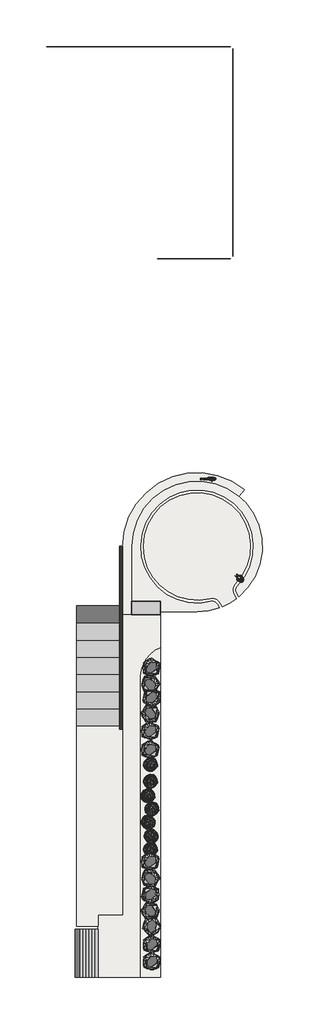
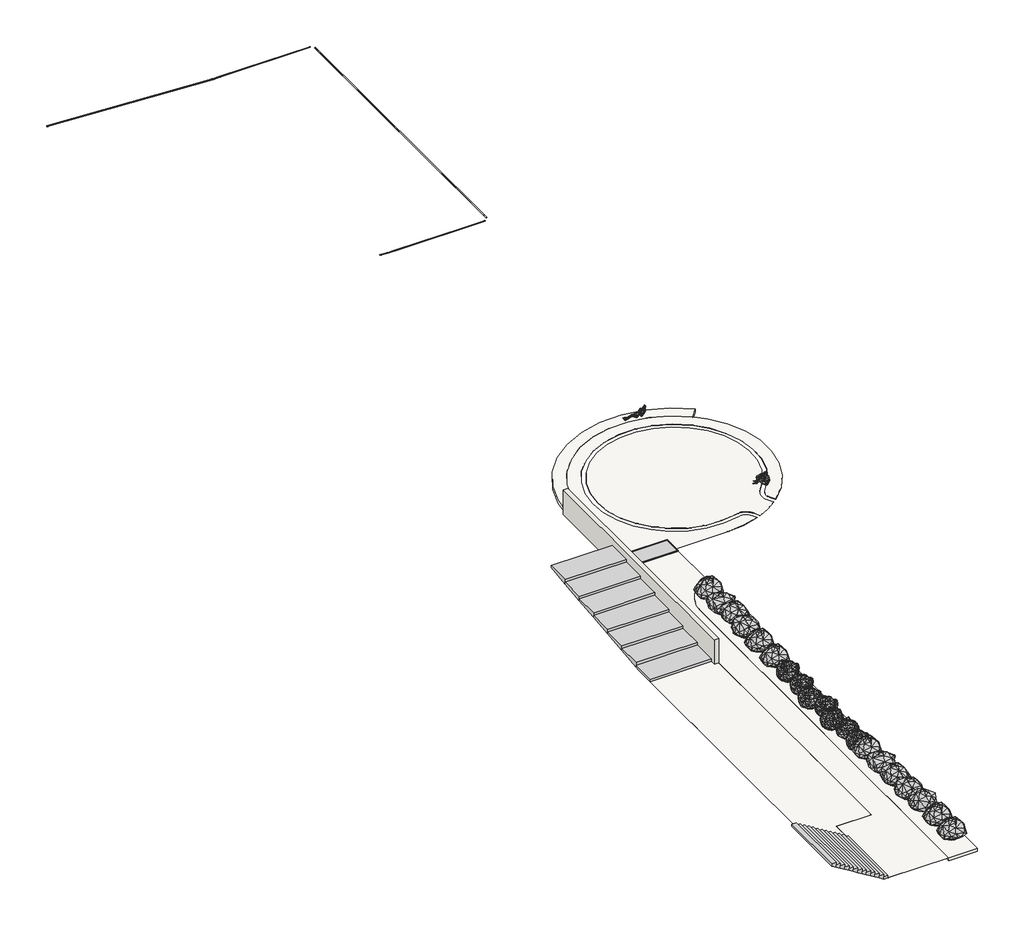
# One storey: 22 geographic elements, 14 slabs, 2 stair flights, 1 proxy, 1 wall.
"""IFC4 building model written with IfcOpenShell, lengths in millimetres."""

from ifc_helpers import new_model, si_unit, point, frame, frame_2d, origin, place, context, project, spatial, polyline, circle_curve, trimmed, segment, composite_curve, outline, extrude, faceted_brep, transform, mapped, element, save
from components import generic_models_308d6f67, geographic_element_fcbac310, geographic_element_441a0461, geographic_element_2ea6dca1, geographic_element_0bc7d26b, pieza_112_aqua_blanco_liso_9aff94d1, pieza_112_aqua_blanco_liso_302151b8, pieza_112_aqua_blanco_liso_eb2f0002, pieza_112_aqua_blanco_liso_904b2520, pieza_112_aqua_blanco_liso_29996f7a, pieza_112_aqua_blanco_liso_8053cc1b, pieza_112_aqua_blanco_liso_853ec705, pieza_112_aqua_blanco_liso_45da04d9

model = new_model("IFC4")

# Units and contexts
model_context = context("Model", 3, world=origin())
ifc_project = project(units=[si_unit("LENGTHUNIT", "METRE", prefix="MILLI")], contexts=[model_context])

# Site, building, storey
site = spatial("IfcSite", under=ifc_project)
building = spatial("IfcBuilding", under=site)
storey = spatial("IfcBuildingStorey", under=building, Name="6_NPlaya PIn -2.40", Elevation=-2400.0)

# Proxy
placement = place(None, origin())
generic_models_shape = generic_models_308d6f67(model_context)
element("IfcBuildingElementProxy", 1, Name="PLATO DE DUCHA : Plato de Ducha 135x285 cm", ObjectType="PLATO DE DUCHA : Plato de Ducha 135x285 cm", at=placement, inside=storey, context=model_context, shape_type="MappedRepresentation", body=[
    mapped(generic_models_shape, transform((19228.985042, -4614.6128004, -2400.0), x_axis=(1.0, 0.0, 0.0), y_axis=(0.0, 1.0, 0.0), z_axis=(0.0, 0.0, 1.0))),
])

# Geographic elements
geographic_element_shape = geographic_element_fcbac310(model_context)
element("IfcGeographicElement", 2, ObjectType="Enscape AssetDefinition - Arbusto Yeg : Enscape AssetDefinition - Arbusto Yeg", at=placement, inside=storey, context=model_context, shape_type="MappedRepresentation", body=[
    mapped(geographic_element_shape, transform((19821.7250342, -39579.0140309, -2400.0), x_axis=(1.0, 0.0, 0.0), y_axis=(0.0, 1.0, 0.0), z_axis=(0.0, 0.0, 1.0))),
])
element("IfcGeographicElement", 3, ObjectType="Enscape AssetDefinition - Arbusto Yeg : Enscape AssetDefinition - Arbusto Yeg", at=placement, inside=storey, context=model_context, shape_type="MappedRepresentation", body=[
    mapped(geographic_element_shape, transform((19821.7250342, -37879.0140309, -2400.0), x_axis=(1.0, 0.0, 0.0), y_axis=(0.0, 1.0, 0.0), z_axis=(0.0, 0.0, 1.0))),
])
element("IfcGeographicElement", 4, ObjectType="Enscape AssetDefinition - Arbusto Yeg : Enscape AssetDefinition - Arbusto Yeg", at=placement, inside=storey, context=model_context, shape_type="MappedRepresentation", body=[
    mapped(geographic_element_shape, transform((19794.4932764, -36079.0140309, -2400.0), x_axis=(0.7071067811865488, 0.7071067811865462, 0.0), y_axis=(-0.7071067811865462, 0.7071067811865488, 0.0), z_axis=(0.0, 0.0, 1.0))),
])
element("IfcGeographicElement", 5, ObjectType="Enscape AssetDefinition - Arbusto Yeg : Enscape AssetDefinition - Arbusto Yeg", at=placement, inside=storey, context=model_context, shape_type="MappedRepresentation", body=[
    mapped(geographic_element_shape, transform((19661.0630204, -34576.2220179, -2400.0), x_axis=(0.0, 1.0, 0.0), y_axis=(-1.0, 0.0, 0.0), z_axis=(0.0, 0.0, 1.0))),
])
element("IfcGeographicElement", 6, ObjectType="Enscape AssetDefinition - Arbusto Yeg : Enscape AssetDefinition - Arbusto Yeg", at=placement, inside=storey, context=model_context, shape_type="MappedRepresentation", body=[
    mapped(geographic_element_shape, transform((19661.0630204, -32979.0140309, -2400.0), x_axis=(-1.0, 0.0, 0.0), y_axis=(0.0, -1.0, 0.0), z_axis=(0.0, 0.0, 1.0))),
])
element("IfcGeographicElement", 7, ObjectType="Enscape AssetDefinition - Arbusto Yeg : Enscape AssetDefinition - Arbusto Yeg", at=placement, inside=storey, context=model_context, shape_type="MappedRepresentation", body=[
    mapped(geographic_element_shape, transform((19661.0630204, -31379.0140309, -2400.0), x_axis=(0.0, -1.0, 0.0), y_axis=(1.0, 0.0, 0.0), z_axis=(0.0, 0.0, 1.0))),
])
element("IfcGeographicElement", 8, ObjectType="Enscape AssetDefinition - Arbusto Yeg : Enscape AssetDefinition - Arbusto Yeg", at=placement, inside=storey, context=model_context, shape_type="MappedRepresentation", body=[
    mapped(geographic_element_shape, transform((19661.0630204, -29676.2220179, -2400.0), x_axis=(1.0, 0.0, 0.0), y_axis=(0.0, 1.0, 0.0), z_axis=(0.0, 0.0, 1.0))),
])
element("IfcGeographicElement", 9, ObjectType="Enscape AssetDefinition - Arbusto Yeg : Enscape AssetDefinition - Arbusto Yeg", at=placement, inside=storey, context=model_context, shape_type="MappedRepresentation", body=[
    mapped(geographic_element_shape, transform((19661.0630204, -18607.3550287, -2400.0), x_axis=(1.0, 0.0, 0.0), y_axis=(0.0, 1.0, 0.0), z_axis=(0.0, 0.0, 1.0))),
])
element("IfcGeographicElement", 10, ObjectType="Enscape AssetDefinition - Arbusto Yeg : Enscape AssetDefinition - Arbusto Yeg", at=placement, inside=storey, context=model_context, shape_type="MappedRepresentation", body=[
    mapped(geographic_element_shape, transform((19661.0630204, -16756.5342519, -2400.0), x_axis=(1.0, 0.0, 0.0), y_axis=(0.0, 1.0, 0.0), z_axis=(0.0, 0.0, 1.0))),
])
element("IfcGeographicElement", 11, ObjectType="Enscape AssetDefinition - Arbusto Yeg : Enscape AssetDefinition - Arbusto Yeg", at=placement, inside=storey, context=model_context, shape_type="MappedRepresentation", body=[
    mapped(geographic_element_shape, transform((19661.0630204, -15023.6497252, -2400.0), x_axis=(0.0, 1.0, 0.0), y_axis=(-1.0, 0.0, 0.0), z_axis=(0.0, 0.0, 1.0))),
])
element("IfcGeographicElement", 12, ObjectType="Enscape AssetDefinition - Arbusto Yeg : Enscape AssetDefinition - Arbusto Yeg", at=placement, inside=storey, context=model_context, shape_type="MappedRepresentation", body=[
    mapped(geographic_element_shape, transform((19794.3896595, -13476.2220179, -2400.0), x_axis=(-1.0, 0.0, 0.0), y_axis=(0.0, -1.0, 0.0), z_axis=(0.0, 0.0, 1.0))),
])
element("IfcGeographicElement", 13, ObjectType="Enscape AssetDefinition - Arbusto Yeg : Enscape AssetDefinition - Arbusto Yeg", at=placement, inside=storey, context=model_context, shape_type="MappedRepresentation", body=[
    mapped(geographic_element_shape, transform((19661.0630204, -12176.2220179, -2400.0), x_axis=(0.0, -1.0, 0.0), y_axis=(1.0, 0.0, 0.0), z_axis=(0.0, 0.0, 1.0))),
])
element("IfcGeographicElement", 14, ObjectType="Enscape AssetDefinition - Arbusto Yeg : Enscape AssetDefinition - Arbusto Yeg", at=placement, inside=storey, context=model_context, shape_type="MappedRepresentation", body=[
    mapped(geographic_element_shape, transform((19794.3896595, -10476.2220179, -2400.0), x_axis=(1.0, 0.0, 0.0), y_axis=(0.0, 1.0, 0.0), z_axis=(0.0, 0.0, 1.0))),
])
geographic_element_2_shape = geographic_element_441a0461(model_context)
element("IfcGeographicElement", 15, ObjectType="Enscape AssetDefinition - Arbusto bergamota : Enscape AssetDefinition - Arbusto bergamota", at=placement, inside=storey, context=model_context, shape_type="MappedRepresentation", body=[
    mapped(geographic_element_2_shape, transform((19661.0630204, -28398.4556495, -2400.0), x_axis=(1.0, 0.0, 0.0), y_axis=(0.0, 1.0, 0.0), z_axis=(0.0, 0.0, 1.0))),
])
element("IfcGeographicElement", 16, ObjectType="Enscape AssetDefinition - Arbusto bergamota : Enscape AssetDefinition - Arbusto bergamota", at=placement, inside=storey, context=model_context, shape_type="MappedRepresentation", body=[
    mapped(geographic_element_2_shape, transform((19661.0630204, -27198.4556495, -2400.0), x_axis=(0.0, 1.0, 0.0), y_axis=(-1.0, 0.0, 0.0), z_axis=(0.0, 0.0, 1.0))),
])
element("IfcGeographicElement", 17, ObjectType="Enscape AssetDefinition - Arbusto bergamota : Enscape AssetDefinition - Arbusto bergamota", at=placement, inside=storey, context=model_context, shape_type="MappedRepresentation", body=[
    mapped(geographic_element_2_shape, transform((19521.7250342, -25782.2908836, -2400.0), x_axis=(0.0, -1.0, 0.0), y_axis=(1.0, 0.0, 0.0), z_axis=(0.0, 0.0, 1.0))),
])
element("IfcGeographicElement", 18, ObjectType="Enscape AssetDefinition - Arbusto bergamota : Enscape AssetDefinition - Arbusto bergamota", at=placement, inside=storey, context=model_context, shape_type="MappedRepresentation", body=[
    mapped(geographic_element_2_shape, transform((19794.3896595, -24398.4556495, -2400.0), x_axis=(1.0, 0.0, 0.0), y_axis=(0.0, 1.0, 0.0), z_axis=(0.0, 0.0, 1.0))),
])
element("IfcGeographicElement", 19, ObjectType="Enscape AssetDefinition - Arbusto bergamota : Enscape AssetDefinition - Arbusto bergamota", at=placement, inside=storey, context=model_context, shape_type="MappedRepresentation", body=[
    mapped(geographic_element_2_shape, transform((19394.3896595, -23098.4556495, -2400.0), x_axis=(1.0, 0.0, 0.0), y_axis=(0.0, 1.0, 0.0), z_axis=(0.0, 0.0, 1.0))),
])
element("IfcGeographicElement", 20, ObjectType="Enscape AssetDefinition - Arbusto bergamota : Enscape AssetDefinition - Arbusto bergamota", at=placement, inside=storey, context=model_context, shape_type="MappedRepresentation", body=[
    mapped(geographic_element_2_shape, transform((19661.0630204, -21667.8312091, -2400.0), x_axis=(1.0, 0.0, 0.0), y_axis=(0.0, 1.0, 0.0), z_axis=(0.0, 0.0, 1.0))),
])
element("IfcGeographicElement", 21, ObjectType="Enscape AssetDefinition - Arbusto bergamota : Enscape AssetDefinition - Arbusto bergamota", at=placement, inside=storey, context=model_context, shape_type="MappedRepresentation", body=[
    mapped(geographic_element_2_shape, transform((19661.0630204, -20007.3550287, -2400.0), x_axis=(1.0, 0.0, 0.0), y_axis=(0.0, 1.0, 0.0), z_axis=(0.0, 0.0, 1.0))),
])
geographic_element_3_shape = geographic_element_2ea6dca1(model_context)
element("IfcGeographicElement", 22, ObjectType="Enscape AssetDefinition - Terrell sentado : Enscape AssetDefinition - Terrell sentado", at=placement, inside=storey, context=model_context, shape_type="MappedRepresentation", body=[
    mapped(geographic_element_3_shape, transform((28717.4654127, -1850.5813074, -2400.0), x_axis=(-0.7071067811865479, -0.7071067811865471, 0.0), y_axis=(0.7071067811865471, -0.7071067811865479, 0.0), z_axis=(0.0, 0.0, 1.0))),
])
geographic_element_4_shape = geographic_element_0bc7d26b(model_context)
element("IfcGeographicElement", 23, ObjectType="Enscape AssetDefinition - Asya, tumbada : Enscape AssetDefinition - Asya, tumbada", at=placement, inside=storey, context=model_context, shape_type="MappedRepresentation", body=[
    mapped(geographic_element_4_shape, transform((25454.2749855, 8172.0410336, -2400.0), x_axis=(1.0, 0.0, 0.0), y_axis=(0.0, 1.0, 0.0), z_axis=(0.0, 0.0, 1.0))),
])

# Slabs
element("IfcSlab", 24, ObjectType="Pieza 240 G1_Patrón Recto_Aqua_Indubeige_Pastilla", at=placement, inside=storey, context=model_context, shape_type="SweptSolid", body=[
    extrude(outline(composite_curve([segment(trimmed(circle_curve(frame_2d((24277.5470116, 1492.6449713)), 6482.2577717), [point((17795.2892399, 1492.6449713))], [point((28426.2680908, -3488.0958598))], False, "CARTESIAN"), True, "CONTINUOUS"), segment(polyline([(28426.2680908, -3488.0958598), (28215.201102, -3122.4573292)]), True, "CONTINUOUS"), segment(trimmed(circle_curve(frame_2d((28736.9743092, -2826.668529)), 599.781872), [point((28215.201102, -3122.4573292))], [point((28295.5205503, -2420.6428244))], False, "CARTESIAN"), True, "CONTINUOUS"), segment(trimmed(circle_curve(frame_2d((24277.3611521, 1492.8308308)), 5609.0), [point((28295.5205503, -2420.6428244))], [point((25634.5089179, -3949.50607))], True, "CARTESIAN"), True, "CONTINUOUS"), segment(trimmed(circle_curve(frame_2d((25769.6967335, -4545.0875921)), 610.7316063), [point((25634.5089179, -3949.50607))], [point((26294.3083039, -4232.3963784))], False, "CARTESIAN"), True, "CONTINUOUS"), segment(polyline([(26294.3083039, -4232.3963784), (26503.5907653, -4595.4084964)]), True, "CONTINUOUS"), segment(trimmed(circle_curve(frame_2d((24277.5470116, 1492.6449713)), 6482.2577717), [point((26503.5907653, -4595.4084964))], [point((24277.5470116, -4989.6128004))], False, "CARTESIAN"), True, "CONTINUOUS"), segment(polyline([(24277.5470116, -4989.6128004), (20653.985042, -4989.6128004), (20653.985042, -3939.6128004), (17795.2892399, -3939.6128004), (17795.2892399, 1492.6449713)]), True, "CONTINUOUS")], self_intersect=False)), frame((0.0, 0.0, -2409.0), z_axis=(0.0, 0.0, 1.0), x_axis=(1.0, 0.0, 0.0)), (0.0, 0.0, 1.0), 9.0),
])
element("IfcSlab", 25, ObjectType="GENÉRICO_AGUA", at=placement, inside=storey, context=model_context, shape_type="SweptSolid", body=[
    extrude(outline(composite_curve([segment(trimmed(circle_curve(frame_2d((28736.9743092, -2826.668529)), 896.3208324), [point((28049.2554614, -2251.8347956))], [point((27928.8365042, -3214.3595435))], True, "CARTESIAN"), True, "CONTINUOUS"), segment(polyline([(27928.8365042, -3214.3595435), (28193.6045529, -3673.0262486)]), True, "CONTINUOUS"), segment(trimmed(circle_curve(frame_2d((24277.5470116, 1492.6449713)), 6482.2577717), [point((28193.6045529, -3673.0262486))], [point((26780.3692785, -4486.9492055))], False, "CARTESIAN"), True, "CONTINUOUS"), segment(polyline([(26780.3692785, -4486.9492055), (26548.0100454, -4083.9091382)]), True, "CONTINUOUS"), segment(trimmed(circle_curve(frame_2d((25769.6967335, -4545.0875921)), 904.6862317), [point((26548.0100454, -4083.9091382))], [point((25566.0686018, -3663.615663))], True, "CARTESIAN"), True, "CONTINUOUS"), segment(trimmed(circle_curve(frame_2d((24277.3611521, 1492.8308308)), 5315.0453746), [point((25566.0686018, -3663.615663))], [point((18962.3157775, 1492.8308308))], False, "CARTESIAN"), True, "CONTINUOUS"), segment(trimmed(circle_curve(frame_2d((24277.3611521, 1492.8308308)), 5315.0453746), [point((18962.3157775, 1492.8308308))], [point((28049.2554614, -2251.8347956))], False, "CARTESIAN"), True, "CONTINUOUS")], self_intersect=False)), frame((0.0, 0.0, -2401.0), z_axis=(0.0, 0.0, 1.0), x_axis=(1.0, 0.0, 0.0)), (0.0, 0.0, 1.0), 1.0),
])
element("IfcSlab", 26, ObjectType="GENÉRICO_HIERBA", at=placement, inside=storey, context=model_context, shape_type="SweptSolid", body=[
    extrude(outline(composite_curve([segment(trimmed(circle_curve(frame_2d((24278.5577358, 1416.2882257)), 7382.7633924), [point((16895.7943435, 1416.2882257))], [point((28984.3417927, 7104.9428749))], False, "CARTESIAN"), True, "CONTINUOUS"), segment(polyline([(28984.3417927, 7104.9428749), (28442.9849464, 6459.4138033)]), True, "CONTINUOUS"), segment(trimmed(circle_curve(frame_2d((24277.5470116, 1492.6449713)), 6482.2577717), [point((28442.9849464, 6459.4138033))], [point((17795.2892399, 1492.6449713))], True, "CARTESIAN"), True, "CONTINUOUS"), segment(polyline([(17795.2892399, 1492.6449713), (17795.2892399, -5289.6128004), (16895.7943435, -5289.6128004), (16895.7943435, 1416.2882257)]), True, "CONTINUOUS")], self_intersect=False)), frame((0.0, 0.0, -2631.0), z_axis=(0.0, 0.0, 1.0), x_axis=(1.0, 0.0, 0.0)), (0.0, 0.0, 1.0), 231.0),
])
element("IfcSlab", 27, ObjectType="Pieza 240 G1_Patrón Recto_Aqua_Indubeige_Pastilla", at=placement, inside=storey, context=model_context, shape_type="SweptSolid", body=[
    extrude(outline(composite_curve([segment(trimmed(circle_curve(frame_2d((21933.9746311, -11524.8157802)), 3268.9658988), [point((20653.985042, -8516.8655314))], [point((18671.8705235, -11313.1206243))], True, "CARTESIAN"), True, "CONTINUOUS"), segment(polyline([(18671.8705235, -11313.1206243), (18671.8705235, -41165.6888719), (14455.9892565, -41165.6888719), (14455.9892565, -34956.7174558), (16896.1892165, -34956.7174558), (16896.1892165, -5289.6128004), (20653.985042, -5289.6128004), (20653.985042, -8516.8655314)]), True, "CONTINUOUS")], self_intersect=False)), frame((0.0, 0.0, -2409.0), z_axis=(0.0, 0.0, 1.0), x_axis=(1.0, 0.0, 0.0)), (0.0, 0.0, 1.0), 9.0),
])
element("IfcSlab", 28, ObjectType="GENÉRICO_HIERBA", at=placement, inside=storey, context=model_context, shape_type="SweptSolid", body=[
    extrude(outline(composite_curve([segment(polyline([(20653.985042, -41165.6888719), (18671.8705235, -41165.6888719), (18671.8705235, -11313.1206243)]), True, "CONTINUOUS"), segment(trimmed(circle_curve(frame_2d((21933.9746311, -11524.8157802)), 3268.9658988), [point((18671.8705235, -11313.1206243))], [point((20653.985042, -8516.8655314))], False, "CARTESIAN"), True, "CONTINUOUS"), segment(polyline([(20653.985042, -8516.8655314), (20653.985042, -41165.6888719)]), True, "CONTINUOUS")], self_intersect=False)), frame((0.0, 0.0, -2631.0), z_axis=(0.0, 0.0, 1.0), x_axis=(1.0, 0.0, 0.0)), (0.0, 0.0, 1.0), 231.0),
])
element("IfcSlab", 29, ObjectType="GENÉRICO_PLAYA", at=placement, inside=storey, context=model_context, shape_type="SweptSolid", body=[
    extrude(outline(polyline([(16596.1892165, -16276.2220179), (16596.1892165, -16607.3550287), (16896.1892165, -16607.3550287), (16896.1892165, -34956.7174558), (14455.9892565, -34956.7174558), (14455.9892565, -36079.0140309), (12361.0630204, -36079.0140309), (12361.0630204, -16276.2220179), (16596.1892165, -16276.2220179)])), frame((0.0, 0.0, -2409.0), z_axis=(0.0, 0.0, 1.0), x_axis=(1.0, 0.0, 0.0)), (0.0, 0.0, 1.0), 9.0),
])
pieza_112_aqua_blanco_liso_shape = pieza_112_aqua_blanco_liso_9aff94d1(model_context)
element("IfcSlab", 30, ObjectType="ROSA GRES_112 : Pieza 112_Aqua_Blanco_Liso", at=placement, inside=storey, context=model_context, shape_type="MappedRepresentation", body=[
    mapped(pieza_112_aqua_blanco_liso_shape, transform((9361.1499347, 50963.368284, -1433.9132147), x_axis=(0.9987523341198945, 0.0, -0.04993771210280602), y_axis=(0.0, 1.0, 0.0), z_axis=(0.04993771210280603, 0.0, 0.9987523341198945))),
])
pieza_112_aqua_blanco_liso_2_shape = pieza_112_aqua_blanco_liso_302151b8(model_context)
element("IfcSlab", 31, ObjectType="ROSA GRES_112 : Pieza 112_Aqua_Blanco_Liso", at=placement, inside=storey, context=model_context, shape_type="MappedRepresentation", body=[
    mapped(pieza_112_aqua_blanco_liso_2_shape, transform((21347.9297857, 50963.368284, -2010.0), x_axis=(1.0, 0.0, 0.0), y_axis=(0.0, 1.0, 0.0), z_axis=(0.0, 0.0, 1.0))),
])
pieza_112_aqua_blanco_liso_3_shape = pieza_112_aqua_blanco_liso_eb2f0002(model_context)
element("IfcSlab", 32, ObjectType="ROSA GRES_112 : Pieza 112_Aqua_Blanco_Liso", at=placement, inside=storey, context=model_context, shape_type="MappedRepresentation", body=[
    mapped(pieza_112_aqua_blanco_liso_3_shape, transform((27846.7651167, 50743.3948726, -2010.0), x_axis=(0.0, -1.0, 0.0), y_axis=(1.0, 0.0, 0.0), z_axis=(0.0, 0.0, 1.0))),
])
pieza_112_aqua_blanco_liso_4_shape = pieza_112_aqua_blanco_liso_904b2520(model_context)
element("IfcSlab", 33, ObjectType="ROSA GRES_112 : Pieza 112_Aqua_Blanco_Liso", at=placement, inside=storey, context=model_context, shape_type="MappedRepresentation", body=[
    mapped(pieza_112_aqua_blanco_liso_4_shape, transform((21347.8958493, 29963.368284, -2010.0), x_axis=(1.0, 0.0, 0.0), y_axis=(0.0, 1.0, 0.0), z_axis=(0.0, 0.0, 1.0))),
])
pieza_112_aqua_blanco_liso_5_shape = pieza_112_aqua_blanco_liso_29996f7a(model_context)
element("IfcSlab", 34, ObjectType="ROSA GRES_112 : Pieza 112_Aqua_Blanco_Liso", at=placement, inside=storey, context=model_context, shape_type="MappedRepresentation", body=[
    mapped(pieza_112_aqua_blanco_liso_5_shape, transform((21347.9297857, 50963.368284, -2010.0), x_axis=(-1.0, 0.0, 0.0), y_axis=(0.0, -1.0, 0.0), z_axis=(0.0, 0.0, 1.0))),
])
pieza_112_aqua_blanco_liso_6_shape = pieza_112_aqua_blanco_liso_8053cc1b(model_context)
element("IfcSlab", 35, ObjectType="ROSA GRES_112 : Pieza 112_Aqua_Blanco_Liso", at=placement, inside=storey, context=model_context, shape_type="MappedRepresentation", body=[
    mapped(pieza_112_aqua_blanco_liso_6_shape, transform((27846.7651167, 30196.8948726, -2010.0), x_axis=(0.0, 1.0, 0.0), y_axis=(-1.0, 0.0, 0.0), z_axis=(0.0, 0.0, 1.0))),
])
pieza_112_aqua_blanco_liso_7_shape = pieza_112_aqua_blanco_liso_853ec705(model_context)
element("IfcSlab", 36, ObjectType="ROSA GRES_112 : Pieza 112_Aqua_Blanco_Liso", at=placement, inside=storey, context=model_context, shape_type="MappedRepresentation", body=[
    mapped(pieza_112_aqua_blanco_liso_7_shape, transform((21347.8958493, 29963.368284, -2010.0), x_axis=(-1.0, 0.0, 0.0), y_axis=(0.0, -1.0, 0.0), z_axis=(0.0, 0.0, 1.0))),
])
pieza_112_aqua_blanco_liso_8_shape = pieza_112_aqua_blanco_liso_45da04d9(model_context)
element("IfcSlab", 37, ObjectType="ROSA GRES_112 : Pieza 112_Aqua_Blanco_Liso", at=placement, inside=storey, context=model_context, shape_type="MappedRepresentation", body=[
    mapped(pieza_112_aqua_blanco_liso_8_shape, transform((20347.7199138, 29963.368284, -1981.1522907), x_axis=(0.9987523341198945, 0.0, -0.04993771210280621), y_axis=(0.0, 1.0, 0.0), z_axis=(0.04993771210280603, 0.0, 0.9987523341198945))),
])

# Stair flights
element("IfcStairFlight", 38, ObjectType="Tramo monolítico", at=placement, inside=storey, context=model_context, shape_type="Brep", body=[
    faceted_brep([(14155.9892565, -41165.6888719, -2216.3285714), (14455.9892565, -41165.6888719, -2216.3285714), (14455.9892565, -36379.0140309, -2216.3285714), (14155.9892565, -36379.0140309, -2216.3285714), (14155.9892565, -41165.6888719, -2392.2086397), (14168.7152863, -41165.6888719, -2400.0), (14455.9892565, -41165.6888719, -2400.0), (14455.9892565, -36379.0140309, -2400.0), (14168.7152863, -36379.0140309, -2400.0), (14155.9892565, -36379.0140309, -2392.2086397), (13855.9892565, -41165.6888719, -2032.6571429), (14155.9892565, -41165.6888719, -2032.6571429), (14155.9892565, -36379.0140309, -2032.6571429), (13855.9892565, -36379.0140309, -2032.6571429), (13855.9892565, -41165.6888719, -2208.5372111), (13855.9892565, -36379.0140309, -2208.5372111), (13555.9892565, -41165.6888719, -1848.9857143), (13855.9892565, -41165.6888719, -1848.9857143), (13855.9892565, -36379.0140309, -1848.9857143), (13555.9892565, -36379.0140309, -1848.9857143), (13555.9892565, -41165.6888719, -2024.8657826), (13555.9892565, -36379.0140309, -2024.8657826), (13255.9892565, -41165.6888719, -1665.3142857), (13555.9892565, -41165.6888719, -1665.3142857), (13555.9892565, -36379.0140309, -1665.3142857), (13255.9892565, -36379.0140309, -1665.3142857), (13255.9892565, -41165.6888719, -1841.194354), (13255.9892565, -36379.0140309, -1841.194354), (12955.9892565, -41165.6888719, -1481.6428571), (13255.9892565, -41165.6888719, -1481.6428571), (13255.9892565, -36379.0140309, -1481.6428571), (12955.9892565, -36379.0140309, -1481.6428571), (12955.9892565, -41165.6888719, -1657.5229254), (12955.9892565, -36379.0140309, -1657.5229254), (12655.9892565, -41165.6888719, -1297.9714286), (12955.9892565, -41165.6888719, -1297.9714286), (12955.9892565, -36379.0140309, -1297.9714286), (12655.9892565, -36379.0140309, -1297.9714286), (12655.9892565, -41165.6888719, -1473.8514969), (12655.9892565, -36379.0140309, -1473.8514969), (12355.9892565, -41165.6888719, -1114.3), (12655.9892565, -41165.6888719, -1114.3), (12655.9892565, -36379.0140309, -1114.3), (12355.9892565, -36379.0140309, -1114.3), (12355.9892565, -41165.6888719, -1290.1800683), (12355.9892565, -36379.0140309, -1290.1800683), (12055.9892565, -41165.6888719, -930.6285714), (12355.9892565, -41165.6888719, -930.6285714), (12355.9892565, -36379.0140309, -930.6285714), (12055.9892565, -36379.0140309, -930.6285714), (12055.9892565, -41165.6888719, -1106.5086397), (12055.9892565, -36379.0140309, -1106.5086397), (11755.9892565, -41165.6888719, -746.9571429), (12055.9892565, -41165.6888719, -746.9571429), (12055.9892565, -36379.0140309, -746.9571429), (11755.9892565, -36379.0140309, -746.9571429), (11755.9892565, -41165.6888719, -922.8372111), (11755.9892565, -36379.0140309, -922.8372111), (11455.9892565, -41165.6888719, -563.2857143), (11755.9892565, -41165.6888719, -563.2857143), (11755.9892565, -36379.0140309, -563.2857143), (11455.9892565, -36379.0140309, -563.2857143), (11455.9892565, -41165.6888719, -739.1657826), (11455.9892565, -36379.0140309, -739.1657826), (11155.9892565, -41165.6888719, -379.6142857), (11455.9892565, -41165.6888719, -379.6142857), (11455.9892565, -36379.0140309, -379.6142857), (11155.9892565, -36379.0140309, -379.6142857), (11155.9892565, -41165.6888719, -555.494354), (11155.9892565, -36379.0140309, -555.494354), (10855.9892565, -41165.6888719, -195.9428571), (11155.9892565, -41165.6888719, -195.9428571), (11155.9892565, -36379.0140309, -195.9428571), (10855.9892565, -36379.0140309, -195.9428571), (10855.9892565, -41165.6888719, -371.8229254), (10855.9892565, -36379.0140309, -371.8229254), (10555.9892565, -41165.6888719, -12.2714286), (10855.9892565, -41165.6888719, -12.2714286), (10855.9892565, -36379.0140309, -12.2714286), (10555.9892565, -36379.0140309, -12.2714286), (10555.9892565, -41165.6888719, -188.1514969), (10555.9892565, -36379.0140309, -188.1514969)], [[[0, 1, 2, 3]], [[1, 0, 4, 5, 6]], [[2, 1, 6, 7]], [[3, 2, 7, 8, 9]], [[10, 11, 12, 13]], [[11, 10, 14, 4, 0]], [[0, 3, 12, 11]], [[13, 12, 3, 9, 15]], [[16, 17, 18, 19]], [[17, 16, 20, 14, 10]], [[10, 13, 18, 17]], [[19, 18, 13, 15, 21]], [[22, 23, 24, 25]], [[23, 22, 26, 20, 16]], [[16, 19, 24, 23]], [[25, 24, 19, 21, 27]], [[28, 29, 30, 31]], [[29, 28, 32, 26, 22]], [[22, 25, 30, 29]], [[31, 30, 25, 27, 33]], [[34, 35, 36, 37]], [[35, 34, 38, 32, 28]], [[28, 31, 36, 35]], [[37, 36, 31, 33, 39]], [[40, 41, 42, 43]], [[41, 40, 44, 38, 34]], [[34, 37, 42, 41]], [[43, 42, 37, 39, 45]], [[46, 47, 48, 49]], [[47, 46, 50, 44, 40]], [[40, 43, 48, 47]], [[49, 48, 43, 45, 51]], [[52, 53, 54, 55]], [[53, 52, 56, 50, 46]], [[46, 49, 54, 53]], [[55, 54, 49, 51, 57]], [[58, 59, 60, 61]], [[59, 58, 62, 56, 52]], [[52, 55, 60, 59]], [[61, 60, 55, 57, 63]], [[64, 65, 66, 67]], [[65, 64, 68, 62, 58]], [[58, 61, 66, 65]], [[67, 66, 61, 63, 69]], [[70, 71, 72, 73]], [[71, 70, 74, 68, 64]], [[64, 67, 72, 71]], [[73, 72, 67, 69, 75]], [[76, 77, 78, 79]], [[77, 76, 80, 74, 70]], [[70, 73, 78, 77]], [[79, 78, 73, 75, 81]], [[76, 79, 81, 80]], [[7, 6, 5, 8]], [[8, 5, 4, 14, 20, 26, 32, 38, 44, 50, 56, 62, 68, 74, 80, 81, 75, 69, 63, 57, 51, 45, 39, 33, 27, 21, 15, 9]]]),
])
element("IfcStairFlight", 39, ObjectType="Tramo monolítico", at=placement, inside=storey, context=model_context, shape_type="Brep", body=[
    faceted_brep([(12361.0630204, -14576.2220179, -2214.2857143), (12361.0630204, -16276.2220179, -2214.2857143), (16596.1892165, -16276.2220179, -2214.2857143), (16596.1892165, -14576.2220179, -2214.2857143), (12361.0630204, -14576.2220179, -2365.1781235), (12361.0630204, -14894.9761177, -2400.0), (12361.0630204, -16276.2220179, -2400.0), (16596.1892165, -16276.2220179, -2400.0), (16596.1892165, -14894.9761177, -2400.0), (16596.1892165, -14576.2220179, -2365.1781235), (12361.0630204, -12876.2220179, -2028.5714286), (12361.0630204, -14576.2220179, -2028.5714286), (16596.1892165, -14576.2220179, -2028.5714286), (16596.1892165, -12876.2220179, -2028.5714286), (12361.0630204, -12876.2220179, -2179.4638378), (16596.1892165, -12876.2220179, -2179.4638378), (12361.0630204, -11176.2220179, -1842.8571429), (12361.0630204, -12876.2220179, -1842.8571429), (16596.1892165, -12876.2220179, -1842.8571429), (16596.1892165, -11176.2220179, -1842.8571429), (12361.0630204, -11176.2220179, -1993.7495521), (16596.1892165, -11176.2220179, -1993.7495521), (12361.0630204, -9476.2220179, -1657.1428571), (12361.0630204, -11176.2220179, -1657.1428571), (16596.1892165, -11176.2220179, -1657.1428571), (16596.1892165, -9476.2220179, -1657.1428571), (12361.0630204, -9476.2220179, -1808.0352664), (16596.1892165, -9476.2220179, -1808.0352664), (12361.0630204, -7776.2220179, -1471.4285714), (12361.0630204, -9476.2220179, -1471.4285714), (16596.1892165, -9476.2220179, -1471.4285714), (16596.1892165, -7776.2220179, -1471.4285714), (12361.0630204, -7776.2220179, -1622.3209807), (16596.1892165, -7776.2220179, -1622.3209807), (12361.0630204, -6076.2220179, -1285.7142857), (12361.0630204, -7776.2220179, -1285.7142857), (16596.1892165, -7776.2220179, -1285.7142857), (16596.1892165, -6076.2220179, -1285.7142857), (12361.0630204, -6076.2220179, -1436.606695), (16596.1892165, -6076.2220179, -1436.606695), (12361.0630204, -4376.2220179, -1100.0), (12361.0630204, -6076.2220179, -1100.0), (16596.1892165, -6076.2220179, -1100.0), (16596.1892165, -4376.2220179, -1100.0), (12361.0630204, -4376.2220179, -1250.8924093), (16596.1892165, -4376.2220179, -1250.8924093)], [[[0, 1, 2, 3]], [[1, 0, 4, 5, 6]], [[2, 1, 6, 7]], [[3, 2, 7, 8, 9]], [[10, 11, 12, 13]], [[11, 10, 14, 4, 0]], [[0, 3, 12, 11]], [[13, 12, 3, 9, 15]], [[16, 17, 18, 19]], [[17, 16, 20, 14, 10]], [[10, 13, 18, 17]], [[19, 18, 13, 15, 21]], [[22, 23, 24, 25]], [[23, 22, 26, 20, 16]], [[16, 19, 24, 23]], [[25, 24, 19, 21, 27]], [[28, 29, 30, 31]], [[29, 28, 32, 26, 22]], [[22, 25, 30, 29]], [[31, 30, 25, 27, 33]], [[34, 35, 36, 37]], [[35, 34, 38, 32, 28]], [[28, 31, 36, 35]], [[37, 36, 31, 33, 39]], [[40, 41, 42, 43]], [[41, 40, 44, 38, 34]], [[34, 37, 42, 41]], [[43, 42, 37, 39, 45]], [[40, 43, 45, 44]], [[7, 6, 5, 8]], [[8, 5, 4, 14, 20, 26, 32, 38, 44, 45, 39, 33, 27, 21, 15, 9]]]),
])

# Wall
element("IfcWall", 40, ObjectType="GENÉRICO_MURO BASE 30 cm", at=placement, inside=storey, context=model_context, shape_type="SweptSolid", body=[
    extrude(outline(polyline([(16596.1892165, -16607.3550287), (16596.1892165, 1494.1809495), (16896.1892165, 1492.6449713), (16896.1892165, -16607.3550287), (16596.1892165, -16607.3550287)])), frame((0.0, 0.0, -2400.0), z_axis=(0.0, 0.0, 1.0), x_axis=(1.0, 0.0, 0.0)), (0.0, 0.0, 1.0), 1800.0),
])

save(model, "model.ifc")
